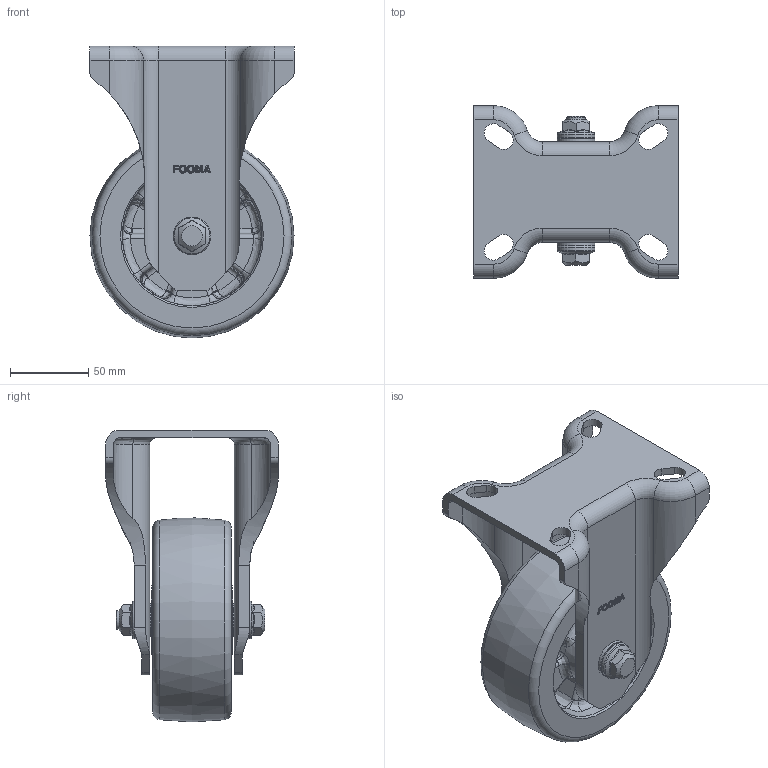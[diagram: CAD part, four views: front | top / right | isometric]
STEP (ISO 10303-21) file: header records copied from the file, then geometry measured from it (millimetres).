
FILE_DESCRIPTION((''),'2;1');
FILE_NAME('C:\Documents and Settings\Administrator\바탕 화면\3D STEP\PHW-SERIES\PHW-130\PHW-130A-RF.stp','2010-12-27T14:51:31',('Administrator'),(''),'Autodesk Inventor 2009','Autodesk Inventor 2009','');
FILE_SCHEMA(('AUTOMOTIVE_DESIGN { 1 0 10303 214 1 1 1 1 }'));
Length unit declared in the file: millimetre
Products named in the file (1): PHW-130A-RF
Bounding box: 130 x 109.96 x 186 mm (x, y, z)
Volume: 425862.3 mm3; surface area: 152254 mm2
Topology: 2 solids, 4 shells, 861 faces, 2238 edges, 1392 vertices
Faces by surface type: bspline 439, plane 262, cylinder 106, cone 36, torus 18
Full cylindrical faces by diameter (mm): 12 x1, 15 x2, 15.2 x2, 21.5 x1, 24 x4, 30.5 x2, 35 x2
Entity records: 43278 total; most frequent: CARTESIAN_POINT 25109, ORIENTED_EDGE 4312, DIRECTION 2777, EDGE_CURVE 2156, VERTEX_POINT 1379, AXIS2_PLACEMENT_3D 992, EDGE_LOOP 961, FACE_OUTER_BOUND 859
